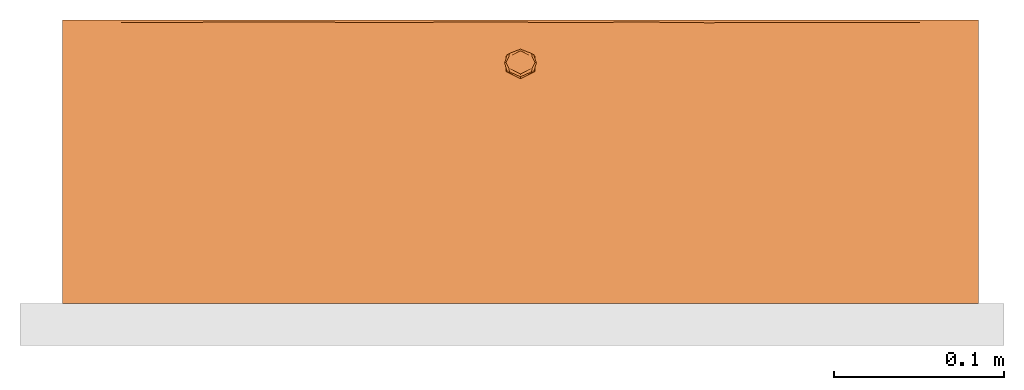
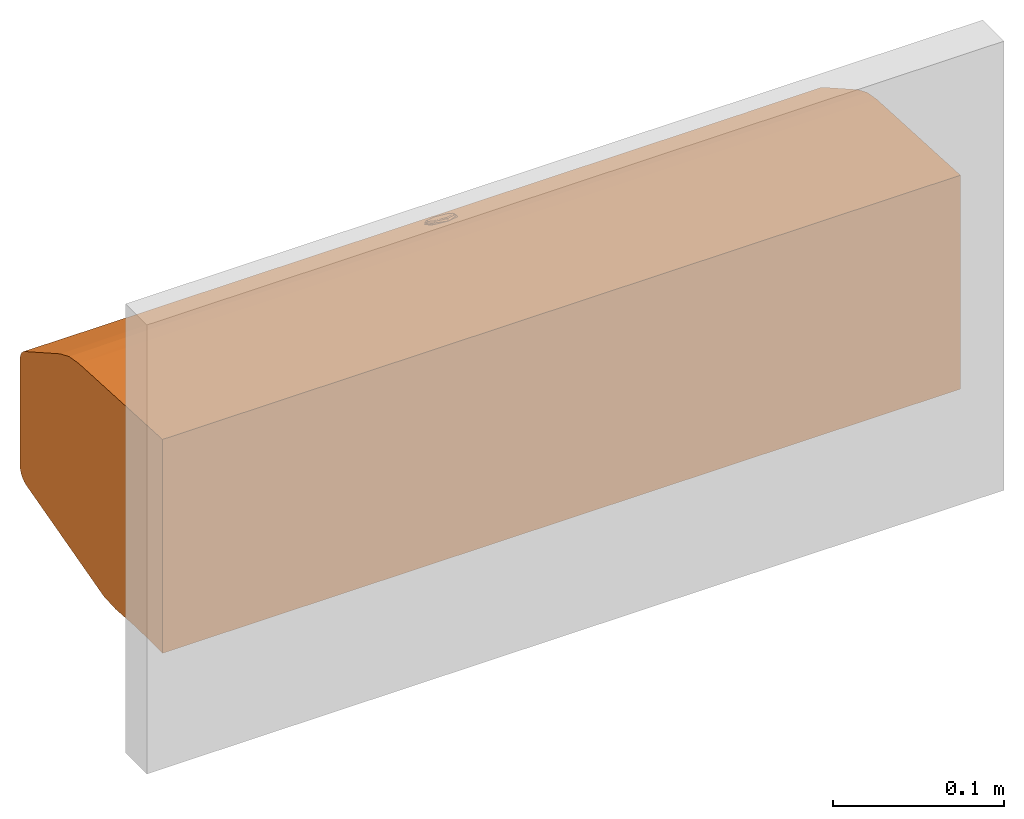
# One storey, part 2 of 2: 1 proxy.
"""IFC2X3 building model written with IfcOpenShell, lengths in millimetres."""

from ifc_helpers import new_model, entity, si_unit, converted_unit, derived_unit, direction, frame, origin, place, context, subcontext, project, spatial, faceted_brep, source, transform, mapped, material, material_list, element, save


model = new_model("IFC2X3")

# Units and contexts
model_context = context("Model", 3, precision=1e-05, world=origin(), true_north=direction((2.0, 6.12303176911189e-17, 1.0)))
context_of_model = context(None, 3, precision=1e-05, world=origin(), true_north=direction((2.0, 6.12303176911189e-17, 1.0)))
body_context = subcontext(model_context, "Body", "Model", "MODEL_VIEW")
ifc_project = project(units=[si_unit("LENGTHUNIT", "METRE", prefix="MILLI"), si_unit("AREAUNIT", "SQUARE_METRE"), si_unit("VOLUMEUNIT", "CUBIC_METRE"), converted_unit("PLANEANGLEUNIT", "DEGREE", entity("IfcRatioMeasure", 0.0174532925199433), si_unit("PLANEANGLEUNIT", "RADIAN"), dimensions=[0, 0, 0, 0, 0, 0, 0]), si_unit("MASSUNIT", "GRAM", prefix="KILO"), si_unit("TIMEUNIT", "SECOND"), si_unit("THERMODYNAMICTEMPERATUREUNIT", "KELVIN"), derived_unit("THERMALTRANSMITTANCEUNIT", [(si_unit("MASSUNIT", "GRAM", prefix="KILO"), 1), (si_unit("THERMODYNAMICTEMPERATUREUNIT", "KELVIN"), -1), (si_unit("TIMEUNIT", "SECOND"), -3)]), derived_unit("VOLUMETRICFLOWRATEUNIT", [(si_unit("LENGTHUNIT", "METRE"), 3), (si_unit("TIMEUNIT", "SECOND"), -1)]), si_unit("POWERUNIT", "WATT")], contexts=[model_context, context_of_model])

# Site, building, storey
site_placement = place(None, origin())
site = spatial("IfcSite", under=ifc_project, at=site_placement, Name="Default", CompositionType="ELEMENT")
building_placement = place(site_placement, origin())
building = spatial("IfcBuilding", under=site, at=building_placement, CompositionType="ELEMENT")
storey_placement = place(building_placement, origin())
storey = spatial("IfcBuildingStorey", under=building, at=storey_placement, Name="Level 1", CompositionType="ELEMENT", Elevation=0.0)

# Proxy
ifc_material = material(Name="White Metal")
ifc_material_list = material_list([ifc_material])
shared_shape = source(origin(), body_context, "Body", "Brep", [
    faceted_brep([(125.0, -141.014224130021, 56.5982053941), (125.0, -149.715199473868, 51.6719280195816), (116.340820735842, -145.364711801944, 54.1350667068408), (116.340820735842, -141.014224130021, 56.5982053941), (133.659179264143, -145.364711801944, 54.1350667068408), (116.340820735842, -136.663736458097, 59.0613440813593), (125.0, -132.313248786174, 61.5244827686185), (133.659179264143, -136.663736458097, 59.0613440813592), (133.659179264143, -141.014224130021, 56.5982053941), (117.182672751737, -136.467965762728, 60.2951720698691), (125.0, -134.591624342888, 62.3335412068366), (118.484568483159, -136.435443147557, 61.159283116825), (118.168601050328, -138.586823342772, 60.3161144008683), (125.0, -135.154636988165, 62.2593335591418), (118.484568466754, -147.281115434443, 55.0187312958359), (125.0, -149.236692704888, 54.0418651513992), (118.168601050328, -145.451196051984, 56.4296760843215), (116.400863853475, -141.958281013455, 58.2656339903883), (115.621853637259, -141.71590460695, 57.837539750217), (117.182672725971, -146.523423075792, 54.6020204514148), (125.0, -149.868117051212, 53.2473056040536), (125.0, -148.883382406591, 54.486456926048), (125.0, -133.585426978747, 62.4661626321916), (132.817327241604, -146.523423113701, 54.6020204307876), (131.515431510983, -147.281115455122, 55.0187312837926), (131.831398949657, -145.451196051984, 56.4296760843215), (131.515431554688, -136.435443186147, 61.1592830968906), (131.831398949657, -138.586823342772, 60.3161144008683), (133.5991361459, -141.958281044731, 58.265633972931), (134.378146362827, -141.715904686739, 57.8375397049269), (132.817327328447, -136.467965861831, 60.2951720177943), (125.0, -142.019009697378, 58.3728952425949)], [[[0, 1, 2]], [[0, 2, 3]], [[0, 4, 1]], [[0, 3, 5]], [[5, 6, 0]], [[6, 7, 0]], [[0, 7, 8]], [[0, 8, 4]], [[5, 9, 6]], [[10, 11, 12]], [[12, 13, 10]], [[14, 15, 16]], [[14, 16, 17]], [[11, 18, 17]], [[11, 17, 12]], [[14, 18, 19]], [[1, 20, 19]], [[3, 18, 9]], [[15, 21, 16]], [[18, 14, 17]], [[10, 22, 11]], [[3, 9, 5]], [[3, 19, 18]], [[16, 12, 17]], [[20, 15, 14]], [[18, 11, 9]], [[11, 22, 9]], [[6, 9, 22]], [[1, 19, 2]], [[20, 14, 19]], [[19, 3, 2]], [[4, 23, 1]], [[15, 24, 25]], [[25, 21, 15]], [[26, 10, 27]], [[26, 27, 28]], [[24, 29, 28]], [[24, 28, 25]], [[26, 29, 30]], [[6, 22, 30]], [[8, 29, 23]], [[10, 13, 27]], [[29, 26, 28]], [[15, 20, 24]], [[8, 23, 4]], [[8, 30, 29]], [[27, 25, 28]], [[22, 10, 26]], [[29, 24, 23]], [[24, 20, 23]], [[1, 23, 20]], [[6, 30, 7]], [[22, 26, 30]], [[30, 8, 7]], [[16, 21, 31]], [[31, 12, 16]], [[21, 25, 31]], [[27, 31, 25]], [[31, 27, 13]], [[31, 13, 12]]]),
    faceted_brep([(395.0, -30.0, -73.0), (395.0, 0.0, -73.0), (395.0, 0.0, 80.0), (395.0, -98.0839131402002, 74.8596399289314), (395.0, -109.465883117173, 72.9285225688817), (395.0, -120.101559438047, 68.4384397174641), (395.0, -161.926888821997, 44.7579710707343), (395.0, -163.641085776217, 43.5322771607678), (395.0, -165.060365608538, 41.9745732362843), (395.0, -166.121700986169, 40.1540337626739), (395.0, -166.777960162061, 38.1515051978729), (395.0, -167.0, 36.0559157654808), (395.0, -167.0, -39.8857007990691), (395.0, -166.659258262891, -42.4738912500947), (395.0, -165.660254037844, -44.8857007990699), (395.0, -164.071067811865, -46.9567686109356), (395.0, -162.0, -48.5459548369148), (395.0, -159.588190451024, -49.5449590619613), (395.0, -68.7583880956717, -73.8827312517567), (395.0, -55.1241262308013, -74.6991541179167), (393.0, -159.588190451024, -49.5449590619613), (393.0, -162.0, -48.5459548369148), (393.0, -164.071067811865, -46.9567686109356), (393.0, -165.660254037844, -44.8857007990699), (393.0, -166.659258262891, -42.4738912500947), (393.0, -167.0, -39.8857007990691), (393.0, -167.0, 36.0559157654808), (393.0, -166.777960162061, 38.1515051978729), (393.0, -166.121700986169, 40.1540337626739), (393.0, -165.060365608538, 41.9745732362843), (393.0, -163.641085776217, 43.5322771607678), (393.0, -161.926888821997, 44.7579710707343), (393.0, -120.101559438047, 68.4384397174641), (393.0, -109.465883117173, 72.9285225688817), (393.0, -98.0839131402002, 74.8596399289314), (393.0, 0.0, 80.0), (393.0, 0.0, -73.0), (393.0, -30.0, -73.0), (393.0, -55.1241262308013, -74.6991541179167), (393.0, -68.7583880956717, -73.8827312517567)], [[[0, 1, 2, 3, 4, 5, 6, 7, 8, 9, 10, 11, 12, 13, 14, 15, 16, 17, 18, 19]], [[20, 21, 22, 23, 24, 25, 26, 27, 28, 29, 30, 31, 32, 33, 34, 35, 36, 37, 38, 39]], [[3, 2, 35, 34]], [[3, 34, 33, 4]], [[33, 32, 5, 4]], [[6, 5, 32, 31]], [[7, 6, 31, 30]], [[8, 7, 30, 29]], [[29, 28, 9, 8]], [[10, 9, 28, 27]], [[11, 10, 27, 26]], [[12, 11, 26, 25]], [[13, 12, 25, 24]], [[14, 13, 24, 23]], [[23, 22, 15, 14]], [[16, 15, 22, 21]], [[17, 16, 21, 20]], [[18, 17, 20, 39]], [[19, 18, 39, 38]], [[0, 19, 38, 37]], [[1, 0, 37, 36]], [[2, 1, 36, 35]]]),
    faceted_brep([(-143.0, -98.0839131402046, 74.8596399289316), (-143.0, -109.465883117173, 72.9285225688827), (-143.0, -120.101559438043, 68.438439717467), (-143.0, -161.926888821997, 44.7579710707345), (-143.0, -163.641085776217, 43.5322771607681), (-143.0, -165.060365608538, 41.9745732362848), (-143.0, -166.121700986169, 40.1540337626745), (-143.0, -166.777960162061, 38.1515051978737), (-143.0, -167.0, 36.0559157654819), (-143.0, -167.0, -39.8857007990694), (-143.0, -166.659258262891, -42.4738912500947), (-143.0, -165.660254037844, -44.8857007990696), (-143.0, -164.071067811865, -46.9567686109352), (-143.0, -162.0, -48.5459548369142), (-143.0, -159.588190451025, -49.5449590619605), (-143.0, -68.7583880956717, -73.8827312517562), (-143.0, -55.1241262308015, -74.6991541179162), (-143.0, -30.0, -73.0), (-143.0, 0.0, -73.0), (-143.0, 0.0, 80.0), (-145.0, -159.588190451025, -49.5449590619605), (-145.0, -162.0, -48.5459548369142), (-145.0, -164.071067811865, -46.9567686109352), (-145.0, -165.660254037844, -44.8857007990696), (-145.0, -166.659258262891, -42.4738912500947), (-145.0, -167.0, -39.8857007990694), (-145.0, -167.0, 36.0559157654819), (-145.0, -166.777960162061, 38.1515051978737), (-145.0, -166.121700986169, 40.1540337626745), (-145.0, -165.060365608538, 41.9745732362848), (-145.0, -163.641085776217, 43.5322771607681), (-145.0, -161.926888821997, 44.7579710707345), (-145.0, -120.101559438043, 68.438439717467), (-145.0, -109.465883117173, 72.9285225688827), (-145.0, -98.0839131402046, 74.8596399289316), (-145.0, 0.0, 80.0), (-145.0, 0.0, -73.0), (-145.0, -30.0, -73.0), (-145.0, -55.1241262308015, -74.6991541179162), (-145.0, -68.7583880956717, -73.8827312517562)], [[[0, 1, 2, 3, 4, 5, 6, 7, 8, 9, 10, 11, 12, 13, 14, 15, 16, 17, 18, 19]], [[20, 21, 22, 23, 24, 25, 26, 27, 28, 29, 30, 31, 32, 33, 34, 35, 36, 37, 38, 39]], [[19, 18, 36, 35]], [[0, 19, 35, 34]], [[0, 34, 33, 1]], [[33, 32, 2, 1]], [[3, 2, 32, 31]], [[4, 3, 31, 30]], [[5, 4, 30, 29]], [[29, 28, 6, 5]], [[7, 6, 28, 27]], [[8, 7, 27, 26]], [[9, 8, 26, 25]], [[10, 9, 25, 24]], [[11, 10, 24, 23]], [[23, 22, 12, 11]], [[13, 12, 22, 21]], [[14, 13, 21, 20]], [[15, 14, 20, 39]], [[16, 15, 39, 38]], [[17, 16, 38, 37]], [[18, 17, 37, 36]]]),
    faceted_brep([(395.0, -30.0, -73.0), (395.0, 0.0, -73.0), (395.0, 0.0, 80.0), (395.0, -98.0839131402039, 74.8596399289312), (395.0, -109.465883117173, 72.9285225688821), (395.0, -120.101559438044, 68.4384397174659), (395.0, -161.926888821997, 44.7579710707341), (395.0, -163.641085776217, 43.5322771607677), (395.0, -165.060365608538, 41.9745732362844), (395.0, -166.121700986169, 40.1540337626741), (395.0, -166.777960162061, 38.1515051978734), (395.0, -167.0, 36.0559157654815), (395.0, -167.0, -39.8857007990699), (395.0, -166.659258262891, -42.4738912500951), (395.0, -165.660254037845, -44.8857007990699), (395.0, -164.071067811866, -46.9567686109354), (395.0, -162.0, -48.5459548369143), (395.0, -159.588190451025, -49.5449590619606), (395.0, -68.7583880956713, -73.8827312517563), (395.0, -55.1241262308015, -74.6991541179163), (395.0, -54.2152194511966, -72.7499972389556), (395.0, -68.4365239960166, -71.8984221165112), (395.0, -159.07055236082, -47.6131074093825), (395.0, -161.0, -46.8139040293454), (395.0, -162.656854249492, -45.5425550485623), (395.0, -163.928203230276, -43.8857007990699), (395.0, -164.727406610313, -41.9562531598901), (395.0, -165.0, -39.8857007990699), (395.0, -165.0, 36.0559157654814), (395.0, -163.911298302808, 40.0850541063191), (395.0, -160.941511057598, 43.0175600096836), (395.0, -119.116181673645, 66.6980286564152), (395.0, -108.905932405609, 71.0085081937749), (395.0, -97.9792412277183, 72.8623808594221), (395.0, -2.0, 77.8924397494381), (395.0, -2.0, -70.9678787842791), (395.0, -30.0, -70.967878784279), (-145.0, 0.0, 80.0), (-145.0, 0.0, -73.0), (-145.0, -30.0, -73.0), (-145.0, -30.0, -70.967878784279), (-145.0, -2.0, -70.9678787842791), (-145.0, -2.0, 77.8924397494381), (-145.0, -97.9792412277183, 72.8623808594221), (-145.0, -108.905932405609, 71.0085081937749), (-145.0, -119.116181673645, 66.6980286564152), (-145.0, -160.941511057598, 43.0175600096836), (-145.0, -163.911298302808, 40.0850541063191), (-145.0, -165.0, 36.0559157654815), (-145.0, -165.0, -39.8857007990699), (-145.0, -164.727406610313, -41.9562531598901), (-145.0, -163.928203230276, -43.8857007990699), (-145.0, -162.656854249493, -45.5425550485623), (-145.0, -161.0, -46.8139040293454), (-145.0, -159.07055236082, -47.6131074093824), (-145.0, -68.4365239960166, -71.8984221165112), (-145.0, -54.2152194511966, -72.7499972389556), (-145.0, -55.1241262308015, -74.6991541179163), (-145.0, -68.7583880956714, -73.8827312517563), (-145.0, -159.588190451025, -49.5449590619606), (-145.0, -162.0, -48.5459548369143), (-145.0, -164.071067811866, -46.9567686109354), (-145.0, -165.660254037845, -44.8857007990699), (-145.0, -166.659258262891, -42.4738912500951), (-145.0, -167.0, -39.8857007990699), (-145.0, -167.0, 36.0559157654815), (-145.0, -166.777960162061, 38.1515051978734), (-145.0, -166.121700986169, 40.1540337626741), (-145.0, -165.060365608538, 41.9745732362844), (-145.0, -163.641085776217, 43.5322771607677), (-145.0, -161.926888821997, 44.7579710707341), (-145.0, -120.101559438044, 68.4384397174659), (-145.0, -109.465883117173, 72.9285225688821), (-145.0, -98.0839131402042, 74.8596399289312), (208.358779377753, -164.707601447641, -46.2569549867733), (260.000002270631, -164.647836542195, -46.3285725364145), (260.000009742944, -167.0, -39.8857007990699), (348.539809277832, -164.933533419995, -45.9733150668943), (304.454423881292, -164.330021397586, -46.6879641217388), (339.791303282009, -159.588190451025, -49.5449590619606), (-62.1869522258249, -164.933533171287, -45.9733153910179), (-89.7913032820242, -159.588190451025, -49.5449590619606), (-34.5826065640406, -159.588190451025, -49.5449590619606), (-89.7913128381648, -167.0, -39.8857007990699), (339.791312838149, -167.0, -39.8857007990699), (-13.1652842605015, -164.722953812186, -46.2383368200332), (-10.0000097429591, -167.0, -39.8857007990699), (235.417389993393, -159.588190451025, -49.5449590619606), (284.582606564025, -159.588190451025, -49.5449590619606), (20.6260901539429, -159.588190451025, -49.5449590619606), (48.2304400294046, -164.612837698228, -46.369889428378), (100.77960764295, -164.917146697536, -45.9946113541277), (125.0, -167.0, -39.8857007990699), (57.4999951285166, -167.0, -39.8857007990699), (150.924179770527, -165.222392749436, -45.5771204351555), (192.500004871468, -167.0, -39.8857007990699), (155.626084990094, -159.588190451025, -49.5449590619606), (75.834779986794, -159.588190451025, -49.5449590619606), (299.895661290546, -167.0, -39.8857007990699), (-95.6198402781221, -159.07055236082, -47.6131074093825), (-52.809920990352, -159.07055236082, -47.6131074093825), (-10.0000017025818, -159.07055236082, -47.6131074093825), (23.7499961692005, -159.07055236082, -47.6131074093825), (57.5000008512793, -159.07055236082, -47.6131074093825), (91.2499987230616, -159.07055236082, -47.6131074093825), (124.999996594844, -159.07055236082, -47.6131074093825), (167.809915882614, -159.07055236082, -47.6131074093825), (210.619835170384, -159.07055236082, -47.6131074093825), (253.429754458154, -159.07055236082, -47.6131074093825), (296.239680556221, -159.07055236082, -47.6131074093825), (345.619840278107, -159.07055236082, -47.6131074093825), (361.661262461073, -163.346826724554, -44.7557922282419), (-109.999613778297, -163.346827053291, -44.755791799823), (327.500001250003, -163.346826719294, -44.7557922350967), (345.619838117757, -165.0, -39.8857007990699), (309.380156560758, -165.0, -39.8857007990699), (73.9256000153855, -163.453399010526, -44.6136645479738), (52.5206333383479, -165.0, -39.8857007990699), (95.3305550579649, -165.0, -39.8857007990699), (274.834724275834, -163.116375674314, -45.0422450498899), (234.505051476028, -163.204914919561, -44.9353573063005), (266.570238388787, -165.0, -39.8857007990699), (27.8080547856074, -163.186762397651, -44.9575812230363), (3.14047500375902, -165.0, -39.8857007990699), (114.267059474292, -163.483930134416, -44.5717065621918), (159.545440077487, -163.563873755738, -44.4590541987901), (197.183681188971, -163.617683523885, -44.3808387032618), (180.950394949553, -165.0, -39.8857007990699), (-74.214873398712, -163.346826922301, -44.7557919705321), (-95.6198416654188, -165.0, -39.8857007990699), (-31.4049528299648, -163.207647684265, -44.9319974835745), (-46.2396833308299, -165.0, -39.8857007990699), (138.140476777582, -165.0, -39.8857007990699), (223.76031666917, -165.0, -39.8857007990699), (-21.5496060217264, -98.0839131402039, 74.8596399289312), (125.000009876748, -98.0839131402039, 74.8596399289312), (271.549606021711, -98.0839131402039, 74.8596399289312), (339.791308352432, -167.0, 36.0559157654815), (284.582609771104, -167.0, 36.0559157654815), (235.41739022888, -167.0, 36.0559157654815), (195.521737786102, -167.0, 36.0559157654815), (155.626085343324, -167.0, 36.0559157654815), (115.730432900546, -167.0, 36.0559157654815), (75.8347804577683, -167.0, 36.0559157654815), (20.6260888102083, -167.0, 36.0559157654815), (-34.5826097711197, -167.0, 36.0559157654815), (-89.7913083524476, -167.0, 36.0559157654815), (-95.6198436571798, -165.0, 36.0559157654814), (-59.38011979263, -165.0, 36.0559157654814), (-16.5701796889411, -165.0, 36.0559157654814), (26.2397116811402, -165.0, 36.0559157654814), (69.0496030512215, -165.0, 36.0559157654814), (111.85954315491, -165.0, 36.0559157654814), (154.669483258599, -165.0, 36.0559157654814), (197.479423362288, -165.0, 36.0559157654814), (246.859579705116, -165.0, 36.0559157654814), (296.239736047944, -165.0, 36.0559157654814), (345.619843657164, -165.0, 36.0559157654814), (-3.42976573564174, -160.941511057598, 43.0175600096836), (39.3801538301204, -160.941511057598, 43.0175600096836), (4.83472901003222, -164.129578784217, 39.6848421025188), (-77.4999930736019, -163.911298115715, 40.0850544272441), (362.238241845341, -164.0322766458, 39.8699798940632), (-95.6198461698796, -160.941511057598, 43.0175600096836), (-111.24999773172, -163.90196147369, 40.1010273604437), (173.89731443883, -163.925186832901, 40.0611357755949), (209.375002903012, -163.825412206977, 40.2288941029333), (370.309919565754, -160.941511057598, 43.0175600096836), (245.051828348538, -163.778059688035, 40.3053753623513), (140.387619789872, -163.891895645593, 40.1181533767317), (-46.0007176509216, -164.014320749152, 39.9029021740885), (327.499999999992, -160.941511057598, 43.0175600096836), (330.152187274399, -164.044059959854, 39.8481735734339), (107.84400387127, -163.741772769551, 40.3627127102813), (125.0, -160.941511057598, 43.0175600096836), (276.87500193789, -163.963836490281, 39.9935522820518), (293.749996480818, -160.941511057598, 43.0175600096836), (35.610200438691, -163.954242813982, 40.01047097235), (77.1633916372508, -163.935069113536, 40.044000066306), (-46.2396853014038, -160.941511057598, 43.0175600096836), (260.0, -160.941511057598, 43.0175600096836), (192.499999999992, -160.941511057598, 43.0175600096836), (226.250003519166, -160.941511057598, 43.0175600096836), (158.749996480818, -160.941511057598, 43.0175600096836), (82.1900733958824, -160.941511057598, 43.0175600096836), (-24.0437170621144, -119.116181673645, 66.6980286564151), (96.9123991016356, -119.116181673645, 66.6980286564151), (185.477974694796, -119.116181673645, 66.6980286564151), (274.043717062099, -119.116181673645, 66.6980286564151), (125.000109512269, -97.9792412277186, 72.862380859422), (260.000054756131, -97.9792412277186, 72.8623808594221), (192.500000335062, -109.532015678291, 70.8212844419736), (-54.2828563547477, -107.956432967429, 71.2748669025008), (289.438566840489, -108.717109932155, 71.063156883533), (36.4342873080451, -108.905932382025, 71.0085082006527), (115.094524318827, -107.215793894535, 71.4681304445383), (50.4783192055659, -97.9792412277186, 72.8623808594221), (-24.0436901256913, -97.9792412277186, 72.862380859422), (106.420333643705, -109.86588592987, 72.8100533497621), (209.824406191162, -109.465883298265, 72.9285225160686), (271.549628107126, -120.101559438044, 68.4384397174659), (148.099224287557, -120.101559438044, 68.4384397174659), (302.412203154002, -110.63050093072, 72.5734330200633), (1.54959618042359, -120.101559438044, 68.4384397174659), (-41.2606318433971, -109.880886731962, 72.8055398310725), (-89.7913332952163, -161.926888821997, 44.7579710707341), (-49.8956745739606, -161.926888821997, 44.7579710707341), (-10.000015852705, -161.926888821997, 44.7579710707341), (57.5000079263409, -161.926888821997, 44.7579710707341), (125.0, -161.926888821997, 44.7579710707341), (192.499992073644, -161.926888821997, 44.7579710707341), (260.00001585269, -161.926888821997, 44.7579710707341), (299.895674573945, -161.926888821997, 44.7579710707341), (339.791333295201, -161.926888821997, 44.7579710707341), (135.309150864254, -165.826425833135, 40.7563632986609), (95.782614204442, -165.416599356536, 41.4559949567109), (216.988738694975, -165.514030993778, 41.3010350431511), (175.195141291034, -165.678197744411, 41.024706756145), (-107.797066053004, -165.639123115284, 41.0923382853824), (357.79706940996, -165.639122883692, 41.0923386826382), (-69.8434710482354, -165.639123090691, 41.0923383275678), (-24.8048287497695, -165.580318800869, 41.1918800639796), (319.843479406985, -165.639122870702, 41.092338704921), (260.000002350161, -165.909906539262, 40.5961322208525), (55.9899769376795, -165.817771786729, 40.7725777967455), (14.6856823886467, -165.356291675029, 41.5488557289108)], [[[0, 1, 2, 3, 4, 5, 6, 7, 8, 9, 10, 11, 12, 13, 14, 15, 16, 17, 18, 19, 20, 21, 22, 23, 24, 25, 26, 27, 28, 29, 30, 31, 32, 33, 34, 35, 36]], [[37, 38, 39, 40, 41, 42, 43, 44, 45, 46, 47, 48, 49, 50, 51, 52, 53, 54, 55, 56, 57, 58, 59, 60, 61, 62, 63, 64, 65, 66, 67, 68, 69, 70, 71, 72, 73]], [[74, 75, 76]], [[77, 78, 79]], [[80, 81, 82]], [[61, 81, 80]], [[80, 62, 61]], [[77, 16, 15]], [[64, 63, 83]], [[13, 12, 84]], [[85, 86, 80]], [[74, 87, 75]], [[60, 59, 81]], [[79, 17, 16]], [[79, 78, 88]], [[84, 77, 13]], [[14, 77, 15]], [[88, 78, 75]], [[62, 83, 63]], [[88, 75, 87]], [[85, 89, 90]], [[80, 86, 83]], [[61, 60, 81]], [[14, 13, 77]], [[91, 92, 93]], [[92, 91, 94]], [[76, 95, 74]], [[94, 95, 92]], [[96, 87, 74]], [[80, 82, 85]], [[62, 80, 83]], [[90, 89, 97]], [[93, 90, 91]], [[85, 82, 89]], [[85, 90, 86]], [[90, 97, 91]], [[90, 93, 86]], [[97, 96, 91]], [[94, 91, 96]], [[96, 74, 94]], [[95, 94, 74]], [[98, 78, 84]], [[77, 79, 16]], [[75, 98, 76]], [[98, 75, 78]], [[78, 77, 84]], [[18, 17, 79, 88, 87, 96, 97, 89, 82, 81, 59, 58]], [[19, 18, 58, 57]], [[20, 19, 57, 56]], [[21, 20, 56, 55]], [[21, 55, 54, 99, 100, 101, 102, 103, 104, 105, 106, 107, 108, 109, 110, 22]], [[24, 23, 111]], [[51, 50, 112]], [[110, 109, 113, 111]], [[111, 114, 26]], [[113, 115, 114, 111]], [[116, 117, 118]], [[119, 120, 121]], [[122, 123, 117]], [[116, 118, 124]], [[105, 125, 106]], [[126, 125, 127]], [[100, 99, 128]], [[119, 108, 120]], [[50, 129, 112]], [[53, 112, 99]], [[123, 122, 130]], [[121, 115, 119]], [[114, 27, 26]], [[50, 49, 129]], [[101, 100, 130]], [[99, 54, 53]], [[23, 22, 110]], [[99, 112, 128]], [[25, 24, 111]], [[104, 116, 124]], [[111, 23, 110]], [[26, 25, 111]], [[115, 113, 119]], [[103, 122, 116]], [[108, 119, 109]], [[124, 105, 104]], [[130, 131, 123]], [[117, 116, 122]], [[102, 101, 122, 103]], [[132, 127, 125]], [[124, 118, 132]], [[125, 105, 124]], [[126, 120, 107]], [[109, 119, 113]], [[133, 121, 120]], [[127, 133, 126]], [[120, 108, 107]], [[132, 125, 124]], [[107, 106, 126]], [[106, 125, 126]], [[120, 126, 133]], [[112, 52, 51]], [[100, 128, 130]], [[128, 129, 131]], [[53, 52, 112]], [[128, 112, 129]], [[122, 101, 130]], [[131, 130, 128]], [[104, 103, 116]], [[35, 34, 42, 41]], [[1, 0, 39, 38]], [[2, 1, 38, 37]], [[2, 37, 73, 134, 135, 136, 3]], [[12, 11, 137, 138, 139, 140, 141, 142, 143, 144, 145, 146, 65, 64, 83, 86, 93, 92, 95, 76, 98, 84]], [[28, 27, 114, 115, 121, 133, 127, 132, 118, 117, 123, 131, 129, 49, 48, 147, 148, 149, 150, 151, 152, 153, 154, 155, 156, 157]], [[158, 159, 160]], [[147, 161, 148]], [[162, 29, 28]], [[163, 161, 164]], [[165, 166, 154]], [[162, 167, 29]], [[168, 155, 166]], [[165, 153, 169]], [[148, 161, 170]], [[171, 162, 172]], [[169, 173, 174]], [[172, 175, 176]], [[169, 153, 152]], [[177, 178, 151]], [[167, 30, 29]], [[162, 157, 172]], [[168, 175, 155]], [[164, 147, 48]], [[164, 47, 46]], [[147, 164, 161]], [[149, 160, 150]], [[161, 163, 179]], [[163, 164, 46]], [[48, 47, 164]], [[179, 170, 161]], [[170, 149, 148]], [[179, 158, 170]], [[160, 149, 170]], [[167, 162, 171]], [[157, 162, 28]], [[176, 171, 172]], [[172, 157, 156]], [[180, 175, 168]], [[175, 180, 176]], [[156, 175, 172]], [[175, 156, 155]], [[181, 182, 166]], [[182, 168, 166]], [[182, 180, 168]], [[181, 166, 165]], [[155, 154, 166]], [[183, 181, 165]], [[153, 165, 154]], [[165, 169, 183]], [[174, 183, 169]], [[177, 160, 159]], [[152, 173, 169]], [[173, 184, 174]], [[173, 152, 178]], [[184, 173, 178]], [[184, 178, 159]], [[151, 178, 152]], [[177, 150, 160]], [[158, 160, 170]], [[150, 177, 151]], [[177, 159, 178]], [[30, 167, 171, 176, 180, 182, 181, 183, 174, 184, 159, 158, 179, 163, 46, 45, 185, 186, 187, 188, 31]], [[189, 190, 191]], [[192, 185, 45]], [[192, 44, 43]], [[193, 191, 190]], [[193, 32, 31]], [[190, 33, 193]], [[185, 192, 194]], [[195, 191, 186]], [[193, 188, 191]], [[185, 194, 186]], [[194, 196, 195]], [[197, 194, 192]], [[189, 191, 195]], [[187, 186, 191, 188]], [[197, 192, 43]], [[45, 44, 192]], [[188, 193, 31]], [[32, 193, 33]], [[189, 195, 196]], [[194, 197, 196]], [[194, 195, 186]], [[34, 33, 190, 189, 196, 197, 43, 42]], [[36, 35, 41, 40]], [[0, 36, 40, 39]], [[135, 198, 199]], [[200, 199, 201]], [[202, 199, 200]], [[203, 204, 71]], [[73, 72, 204]], [[202, 136, 199]], [[204, 134, 73]], [[198, 201, 199]], [[3, 136, 202]], [[198, 134, 204]], [[5, 4, 202]], [[135, 199, 136]], [[134, 198, 135]], [[203, 201, 198]], [[5, 202, 200]], [[202, 4, 3]], [[71, 204, 72]], [[198, 204, 203]], [[6, 5, 200, 201, 203, 71, 70, 205, 206, 207, 208, 209, 210, 211, 212, 213]], [[142, 214, 215]], [[216, 217, 140]], [[66, 146, 218]], [[219, 9, 8]], [[206, 220, 221]], [[222, 223, 138]], [[70, 69, 205]], [[7, 6, 213]], [[144, 224, 225]], [[216, 139, 223]], [[67, 218, 68]], [[7, 213, 219]], [[66, 65, 146]], [[137, 11, 10]], [[223, 212, 211]], [[146, 145, 220, 218]], [[139, 138, 223]], [[142, 215, 143]], [[218, 69, 68]], [[222, 219, 213, 212]], [[10, 9, 219]], [[219, 137, 10]], [[215, 214, 209]], [[216, 211, 210]], [[223, 222, 212]], [[138, 137, 219, 222]], [[219, 8, 7]], [[211, 216, 223]], [[217, 216, 210]], [[209, 217, 210]], [[140, 139, 216]], [[209, 208, 215]], [[217, 214, 141]], [[144, 225, 221]], [[215, 224, 143]], [[224, 215, 208]], [[217, 141, 140]], [[225, 208, 207]], [[144, 143, 224]], [[141, 214, 142]], [[209, 214, 217]], [[218, 205, 69]], [[220, 206, 205]], [[145, 144, 221]], [[218, 67, 66]], [[205, 218, 220]], [[208, 225, 224]], [[225, 207, 221]], [[206, 221, 207]], [[220, 145, 221]]]),
])
proxy_placement = place(storey_placement, frame((1347.02697741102, 3977.69853342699, 112.684619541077), z_axis=(0.0, 0.0, 1.0), x_axis=(-1.0, 0.0, 0.0)))
element("IfcBuildingElementProxy", 1, at=proxy_placement, inside=storey, material=ifc_material_list, Name="BC770-20W:BC 770-20W Dolphin Couch White Metal Roll Dispenser", ObjectType="BC 770-20W Dolphin Couch White Metal Roll Dispenser", CompositionType="ELEMENT", context=body_context, shape_type="MappedRepresentation", body=[
    mapped(shared_shape, transform((0.0, 0.0, 0.0), scale=1.0)),
])

save(model, "model.ifc")
